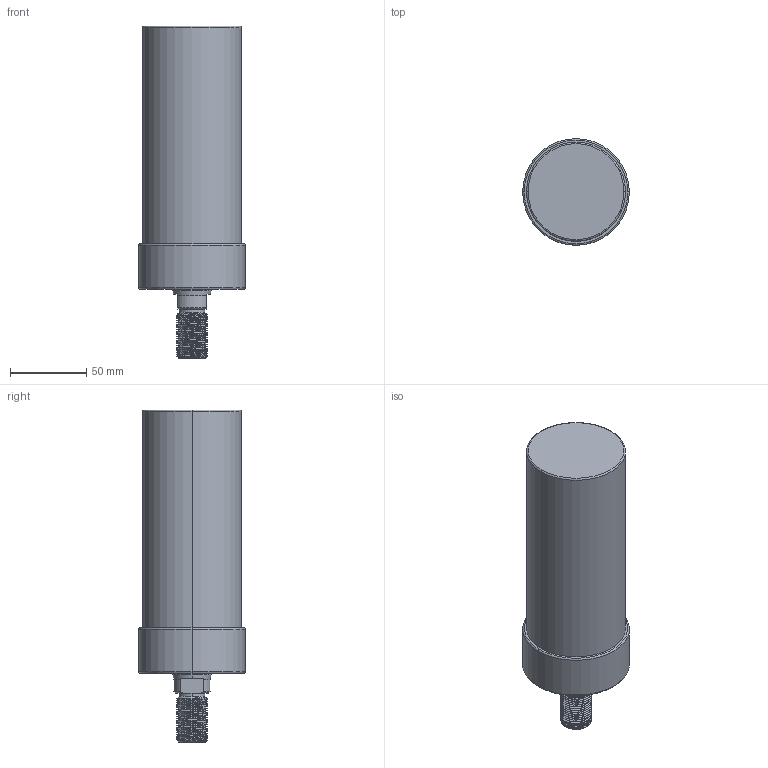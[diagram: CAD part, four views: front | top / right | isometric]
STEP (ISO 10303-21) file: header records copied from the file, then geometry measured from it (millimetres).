
FILE_DESCRIPTION (( 'STEP AP203' ), '1' );
FILE_NAME ('CLLU-065GT-110.STEP', '2020-01-16T02:14:34', ( '' ), ( '' ), 'SwSTEP 2.0', 'SolidWorks 2015', '' );
FILE_SCHEMA (( 'CONFIG_CONTROL_DESIGN' ));
Length unit declared in the file: millimetre
Products named in the file (1): CLLU-065GT-110
Bounding box: 70 x 70 x 218 mm (x, y, z)
Volume: 602768 mm3; surface area: 48598.4 mm2
Topology: 1 solids, 1 shells, 105 faces, 267 edges, 165 vertices
Faces by surface type: cylinder 60, cone 26, plane 11, torus 6, bspline 2
Entity records: 5351 total; most frequent: CARTESIAN_POINT 2993, ORIENTED_EDGE 518, DIRECTION 448, EDGE_CURVE 259, AXIS2_PLACEMENT_3D 180, VERTEX_POINT 165, EDGE_LOOP 114, FACE_OUTER_BOUND 105
